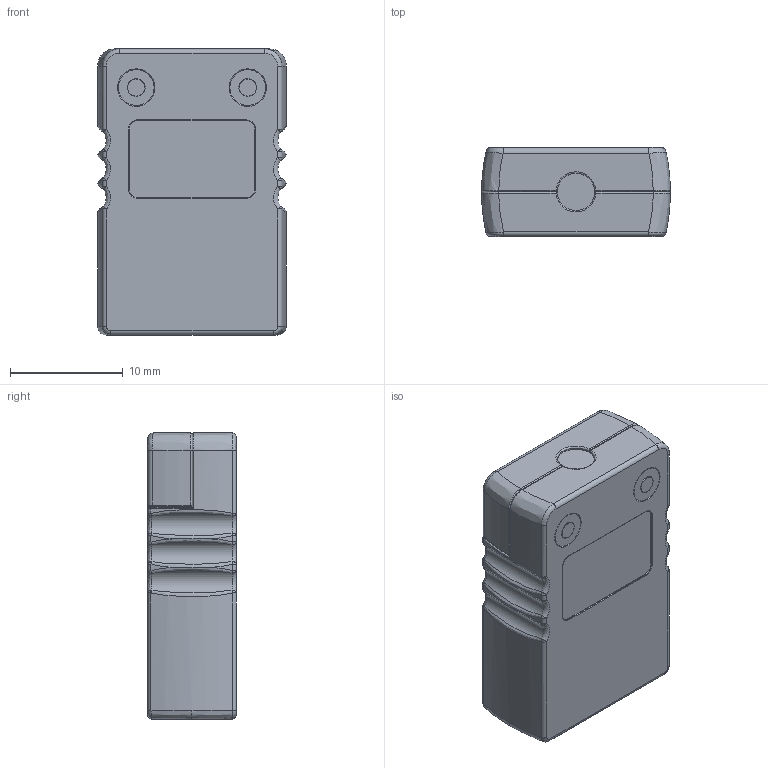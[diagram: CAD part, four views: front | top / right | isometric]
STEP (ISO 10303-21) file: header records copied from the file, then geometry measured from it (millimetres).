
FILE_DESCRIPTION (( 'STEP AP203' ), '1' );
FILE_NAME ('110987.stp', '2018-06-11T19:55:28', ( '' ), ( '' ), 'SwSTEP 2.0', 'SolidWorks 2012', '' );
FILE_SCHEMA (( 'CONFIG_CONTROL_DESIGN' ));
Length unit declared in the file: centimetre
Products named in the file (1): 110987
Bounding box: 16.76 x 7.94 x 25.4 mm (x, y, z)
Volume: 3162.7 mm3; surface area: 1681 mm2
Topology: 1 solids, 1 shells, 407 faces, 958 edges, 562 vertices
Faces by surface type: cylinder 141, bspline 127, plane 109, cone 30
Entity records: 20444 total; most frequent: CARTESIAN_POINT 12039, ORIENTED_EDGE 1904, DIRECTION 1507, EDGE_CURVE 952, AXIS2_PLACEMENT_3D 567, VERTEX_POINT 562, EDGE_LOOP 422, FACE_OUTER_BOUND 407
